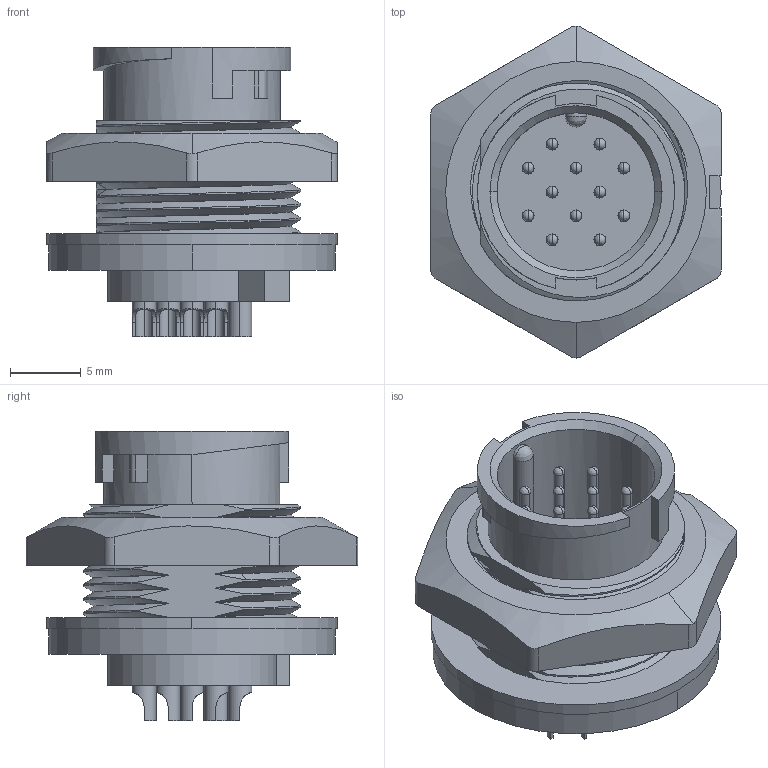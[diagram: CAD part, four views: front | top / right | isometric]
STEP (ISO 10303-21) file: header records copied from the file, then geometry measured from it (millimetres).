
FILE_DESCRIPTION (( 'STEP AP203' ), '1' );
FILE_NAME ('869-012-103R001.STEP', '2024-06-14T18:34:01', ( '' ), ( '' ), 'SwSTEP 2.0', 'SolidWorks 2020', '' );
FILE_SCHEMA (( 'CONFIG_CONTROL_DESIGN' ));
Length unit declared in the file: millimetre
Products named in the file (1): 869-012-103R001
Bounding box: 20.6 x 23.54 x 20.5 mm (x, y, z)
Volume: 2689.9 mm3; surface area: 4076.6 mm2
Topology: 2 solids, 2 shells, 455 faces, 1160 edges, 677 vertices
Faces by surface type: cylinder 195, cone 101, plane 91, bspline 68
Entity records: 20115 total; most frequent: CARTESIAN_POINT 9946, ORIENTED_EDGE 2172, DIRECTION 1988, EDGE_CURVE 1086, AXIS2_PLACEMENT_3D 794, VERTEX_POINT 677, EDGE_LOOP 499, ADVANCED_FACE 455
